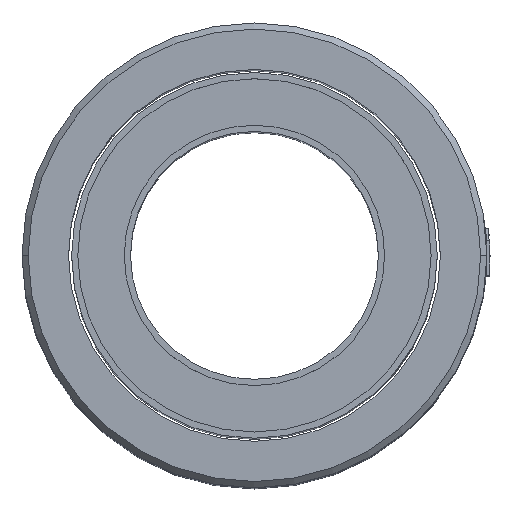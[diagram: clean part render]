
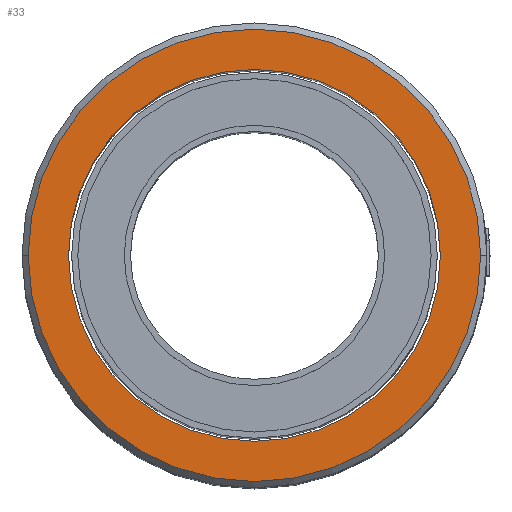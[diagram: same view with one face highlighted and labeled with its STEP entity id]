
A CAD part, top view. The second image highlights one B-rep face of the part: STEP entity #33.
In plain terms, the highlighted planar face has unit normal (0, 0, 1).
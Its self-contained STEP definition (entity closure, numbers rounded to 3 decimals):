
#14 = VERTEX_POINT ( 'NONE', #8363 ) ;
#33 = ADVANCED_FACE ( 'NONE', ( #348, #2352 ), #6147, .T. ) ;
#348 = FACE_OUTER_BOUND ( 'NONE', #3779, .T. ) ;
#516 = CARTESIAN_POINT ( 'NONE',  ( 0., 0., 24. ) ) ;
#635 = CARTESIAN_POINT ( 'NONE',  ( 0., 0., 24. ) ) ;
#877 = DIRECTION ( 'NONE',  ( 0., 0., 1. ) ) ;
#903 = CARTESIAN_POINT ( 'NONE',  ( 7.3, 0., 24. ) ) ;
#1083 = VERTEX_POINT ( 'NONE', #6271 ) ;
#1277 = DIRECTION ( 'NONE',  ( 1., 0., 0. ) ) ;
#1383 = AXIS2_PLACEMENT_3D ( 'NONE', #1540, #6746, #2310 ) ;
#1409 = DIRECTION ( 'NONE',  ( 1., 0., 0. ) ) ;
#1540 = CARTESIAN_POINT ( 'NONE',  ( 0., 0., 24. ) ) ;
#1671 = ORIENTED_EDGE ( 'NONE', *, *, #4403, .T. ) ;
#2102 = ORIENTED_EDGE ( 'NONE', *, *, #7839, .F. ) ;
#2310 = DIRECTION ( 'NONE',  ( 1., 0., 0. ) ) ;
#2352 = FACE_BOUND ( 'NONE', #9341, .T. ) ;
#2656 = CIRCLE ( 'NONE', #4973, 7.3 ) ;
#2873 = AXIS2_PLACEMENT_3D ( 'NONE', #8396, #3939, #9133 ) ;
#3142 = CARTESIAN_POINT ( 'NONE',  ( 0., 0., 24. ) ) ;
#3657 = VERTEX_POINT ( 'NONE', #903 ) ;
#3779 = EDGE_LOOP ( 'NONE', ( #3991, #1671 ) ) ;
#3883 = CIRCLE ( 'NONE', #2873, 6. ) ;
#3939 = DIRECTION ( 'NONE',  ( 0., 0., 1. ) ) ;
#3991 = ORIENTED_EDGE ( 'NONE', *, *, #7789, .T. ) ;
#4403 = EDGE_CURVE ( 'NONE', #3657, #6063, #2656, .T. ) ;
#4891 = EDGE_CURVE ( 'NONE', #1083, #14, #7432, .T. ) ;
#4973 = AXIS2_PLACEMENT_3D ( 'NONE', #516, #5750, #1277 ) ;
#5045 = AXIS2_PLACEMENT_3D ( 'NONE', #3142, #877, #5356 ) ;
#5165 = ORIENTED_EDGE ( 'NONE', *, *, #4891, .F. ) ;
#5356 = DIRECTION ( 'NONE',  ( 1., 0., 0. ) ) ;
#5750 = DIRECTION ( 'NONE',  ( 0., 0., 1. ) ) ;
#5883 = DIRECTION ( 'NONE',  ( 0., 0., 1. ) ) ;
#6063 = VERTEX_POINT ( 'NONE', #8521 ) ;
#6093 = CIRCLE ( 'NONE', #1383, 7.3 ) ;
#6147 = PLANE ( 'NONE',  #5045 ) ;
#6271 = CARTESIAN_POINT ( 'NONE',  ( 6., 0., 24. ) ) ;
#6746 = DIRECTION ( 'NONE',  ( 0., 0., 1. ) ) ;
#7432 = CIRCLE ( 'NONE', #9256, 6. ) ;
#7789 = EDGE_CURVE ( 'NONE', #6063, #3657, #6093, .T. ) ;
#7839 = EDGE_CURVE ( 'NONE', #14, #1083, #3883, .T. ) ;
#8363 = CARTESIAN_POINT ( 'NONE',  ( -6., 0., 24. ) ) ;
#8396 = CARTESIAN_POINT ( 'NONE',  ( 0., 0., 24. ) ) ;
#8521 = CARTESIAN_POINT ( 'NONE',  ( -7.3, 0., 24. ) ) ;
#9133 = DIRECTION ( 'NONE',  ( 1., 0., 0. ) ) ;
#9256 = AXIS2_PLACEMENT_3D ( 'NONE', #635, #5883, #1409 ) ;
#9341 = EDGE_LOOP ( 'NONE', ( #2102, #5165 ) ) ;
